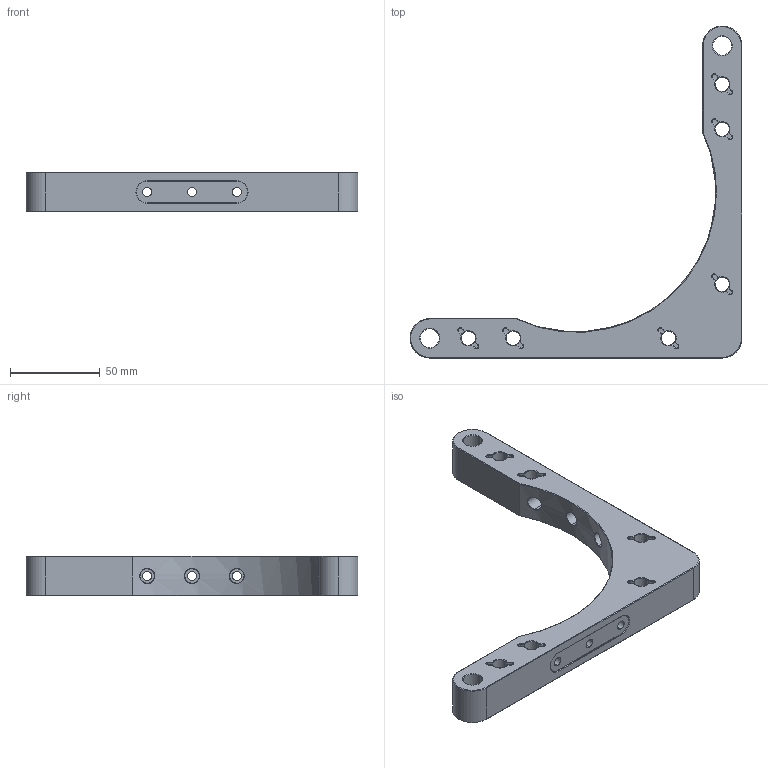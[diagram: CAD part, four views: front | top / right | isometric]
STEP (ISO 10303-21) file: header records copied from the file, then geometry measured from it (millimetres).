
FILE_DESCRIPTION (( 'STEP AP203' ), '1' );
FILE_NAME ('隅啣.STEP', '2026-09-23T01:46:32', ( '' ), ( '' ), 'SwSTEP 2.0', 'SolidWorks 2024', '' );
FILE_SCHEMA (( 'CONFIG_CONTROL_DESIGN' ));
Length unit declared in the file: millimetre
Products named in the file (1): 定板
Bounding box: 185 x 185 x 22 mm (x, y, z)
Volume: 147052.3 mm3; surface area: 35775.9 mm2
Topology: 1 solids, 1 shells, 255 faces, 614 edges, 368 vertices
Faces by surface type: plane 90, cone 84, cylinder 69, bspline 12
Entity records: 16876 total; most frequent: CARTESIAN_POINT 10838, DIRECTION 1263, ORIENTED_EDGE 1224, EDGE_CURVE 612, AXIS2_PLACEMENT_3D 479, VERTEX_POINT 368, VECTOR 305, LINE 305
